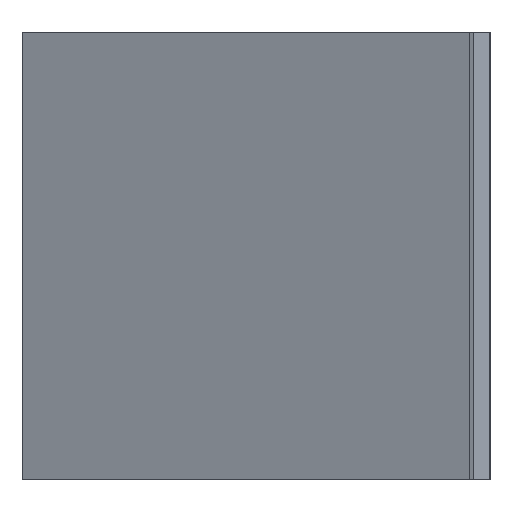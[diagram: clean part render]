
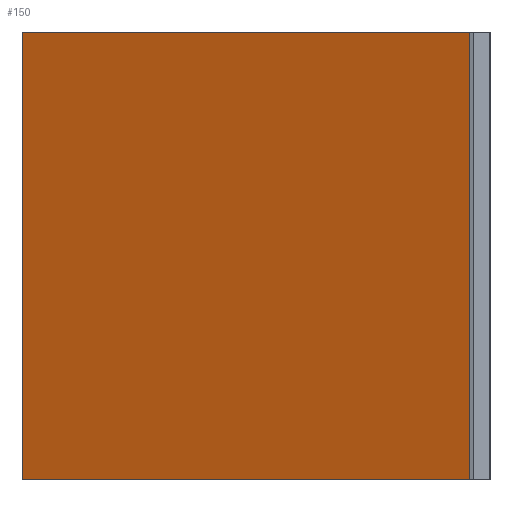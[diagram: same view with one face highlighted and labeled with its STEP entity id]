
A CAD part, left-side view. The second image highlights one B-rep face of the part: STEP entity #150.
In plain terms, the highlighted planar face has unit normal (0.919, -0.394, 0).
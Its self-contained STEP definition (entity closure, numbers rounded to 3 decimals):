
#98=CARTESIAN_POINT('Vertex',(20.,0.,0.)) ;
#101=CARTESIAN_POINT('Line Origine',(20.,0.,56.)) ;
#105=CARTESIAN_POINT('Vertex',(20.,0.,112.)) ;
#120=CARTESIAN_POINT('Axis2P3D Location',(20.,0.,0.)) ;
#125=CARTESIAN_POINT('Line Origine',(44.,56.,0.)) ;
#129=CARTESIAN_POINT('Vertex',(68.,112.,0.)) ;
#132=CARTESIAN_POINT('Line Origine',(68.,112.,56.)) ;
#136=CARTESIAN_POINT('Vertex',(68.,112.,112.)) ;
#139=CARTESIAN_POINT('Line Origine',(44.,56.,112.)) ;
#102=DIRECTION('Vector Direction',(0.,0.,1.)) ;
#121=DIRECTION('Axis2P3D Direction',(0.919,-0.394,0.)) ;
#122=DIRECTION('Axis2P3D XDirection',(0.394,0.919,0.)) ;
#126=DIRECTION('Vector Direction',(0.394,0.919,0.)) ;
#133=DIRECTION('Vector Direction',(0.,0.,1.)) ;
#140=DIRECTION('Vector Direction',(0.394,0.919,0.)) ;
#123=AXIS2_PLACEMENT_3D('Plane Axis2P3D',#120,#121,#122) ;
#145=ORIENTED_EDGE('',*,*,#107,.F.) ;
#146=ORIENTED_EDGE('',*,*,#131,.T.) ;
#147=ORIENTED_EDGE('',*,*,#138,.T.) ;
#148=ORIENTED_EDGE('',*,*,#143,.F.) ;
#103=VECTOR('Line Direction',#102,1.) ;
#127=VECTOR('Line Direction',#126,1.) ;
#134=VECTOR('Line Direction',#133,1.) ;
#141=VECTOR('Line Direction',#140,1.) ;
#150=ADVANCED_FACE('Extrude.1',(#149),#124,.T.) ;
#107=EDGE_CURVE('',#99,#106,#104,.T.) ;
#131=EDGE_CURVE('',#99,#130,#128,.T.) ;
#138=EDGE_CURVE('',#130,#137,#135,.T.) ;
#143=EDGE_CURVE('',#106,#137,#142,.T.) ;
#144=EDGE_LOOP('',(#145,#146,#147,#148)) ;
#149=FACE_OUTER_BOUND('',#144,.T.) ;
#104=LINE('Line',#101,#103) ;
#128=LINE('Line',#125,#127) ;
#135=LINE('Line',#132,#134) ;
#142=LINE('Line',#139,#141) ;
#124=PLANE('',#123) ;
#99=VERTEX_POINT('',#98) ;
#106=VERTEX_POINT('',#105) ;
#130=VERTEX_POINT('',#129) ;
#137=VERTEX_POINT('',#136) ;
